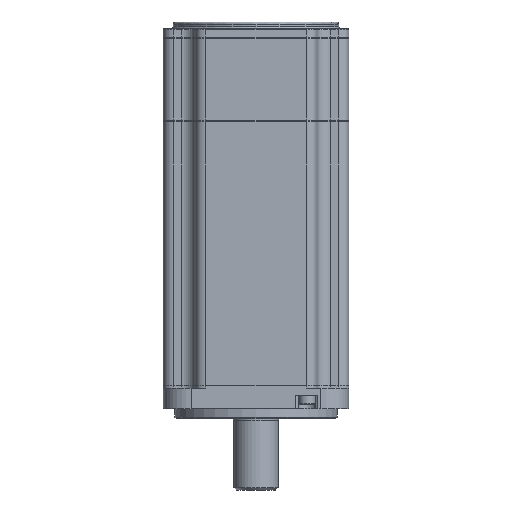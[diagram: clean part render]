
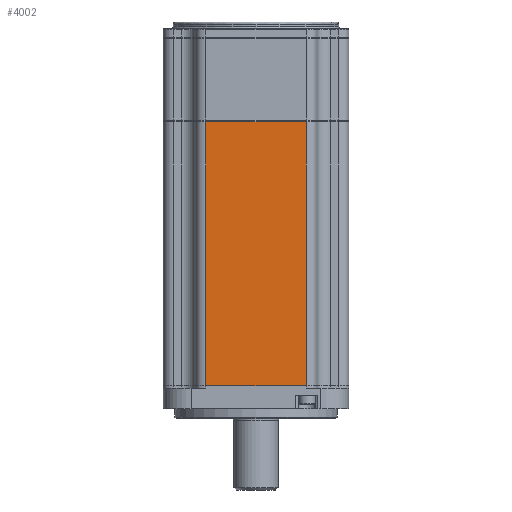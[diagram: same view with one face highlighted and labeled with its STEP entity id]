
A CAD part, front view. The second image highlights one B-rep face of the part: STEP entity #4002.
In plain terms, the highlighted planar face has unit normal (0, -1, 0).
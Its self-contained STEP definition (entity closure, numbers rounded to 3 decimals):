
#3771 = VERTEX_POINT ( 'NONE', #16247 ) ;
#3842 = VERTEX_POINT ( 'NONE', #16381 ) ;
#3844 = EDGE_CURVE ( 'NONE', #3771, #3842, #16380, .T. ) ;
#3945 = ORIENTED_EDGE ( 'NONE', *, *, #3844, .T. ) ;
#3997 = VERTEX_POINT ( 'NONE', #16672 ) ;
#4001 = EDGE_CURVE ( 'NONE', #3771, #3997, #16671, .T. ) ;
#4002 = ADVANCED_FACE ( 'NONE', ( #16667 ), #16666, .F. ) ;
#4003 = EDGE_LOOP ( 'NONE', ( #4004, #4007, #4009, #3945 ) ) ;
#4004 = ORIENTED_EDGE ( 'NONE', *, *, #4005, .F. ) ;
#4005 = EDGE_CURVE ( 'NONE', #4006, #3842, #16661, .T. ) ;
#4006 = VERTEX_POINT ( 'NONE', #16657 ) ;
#4007 = ORIENTED_EDGE ( 'NONE', *, *, #4008, .F. ) ;
#4008 = EDGE_CURVE ( 'NONE', #3997, #4006, #16656, .T. ) ;
#4009 = ORIENTED_EDGE ( 'NONE', *, *, #4001, .F. ) ;
#16247 = CARTESIAN_POINT ( 'NONE',  ( 21.75, -40., 123.9 ) ) ;
#16377 = DIRECTION ( 'NONE',  ( -1., 0., 0. ) ) ;
#16378 = VECTOR ( 'NONE', #16377, 1000. ) ;
#16379 = CARTESIAN_POINT ( 'NONE',  ( -32.05, -40., 123.9 ) ) ;
#16380 = LINE ( 'NONE', #16379, #16378 ) ;
#16381 = CARTESIAN_POINT ( 'NONE',  ( -21.75, -40., 123.9 ) ) ;
#16653 = DIRECTION ( 'NONE',  ( -1., 0., 0. ) ) ;
#16654 = VECTOR ( 'NONE', #16653, 1000. ) ;
#16655 = CARTESIAN_POINT ( 'NONE',  ( -32.05, -40., 10. ) ) ;
#16656 = LINE ( 'NONE', #16655, #16654 ) ;
#16657 = CARTESIAN_POINT ( 'NONE',  ( -21.75, -40., 10. ) ) ;
#16658 = DIRECTION ( 'NONE',  ( 0., 0., 1. ) ) ;
#16659 = VECTOR ( 'NONE', #16658, 1000. ) ;
#16660 = CARTESIAN_POINT ( 'NONE',  ( -21.75, -40., 123.9 ) ) ;
#16661 = LINE ( 'NONE', #16660, #16659 ) ;
#16662 = DIRECTION ( 'NONE',  ( -1., 0., 0. ) ) ;
#16663 = DIRECTION ( 'NONE',  ( 0., 1., 0. ) ) ;
#16664 = AXIS2_PLACEMENT_3D ( 'NONE', #16665, #16663, #16662 ) ;
#16665 = CARTESIAN_POINT ( 'NONE',  ( -26.25, -40., 123.9 ) ) ;
#16666 = PLANE ( 'NONE',  #16664 ) ;
#16667 = FACE_OUTER_BOUND ( 'NONE', #4003, .T. ) ;
#16668 = DIRECTION ( 'NONE',  ( 0., 0., -1. ) ) ;
#16669 = VECTOR ( 'NONE', #16668, 1000. ) ;
#16670 = CARTESIAN_POINT ( 'NONE',  ( 21.75, -40., 123.9 ) ) ;
#16671 = LINE ( 'NONE', #16670, #16669 ) ;
#16672 = CARTESIAN_POINT ( 'NONE',  ( 21.75, -40., 10. ) ) ;
